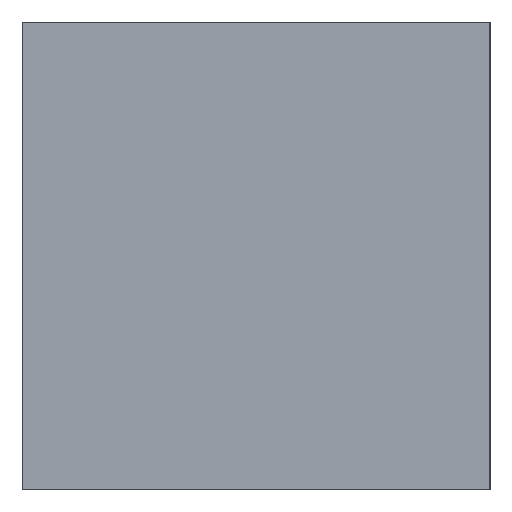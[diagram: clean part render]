
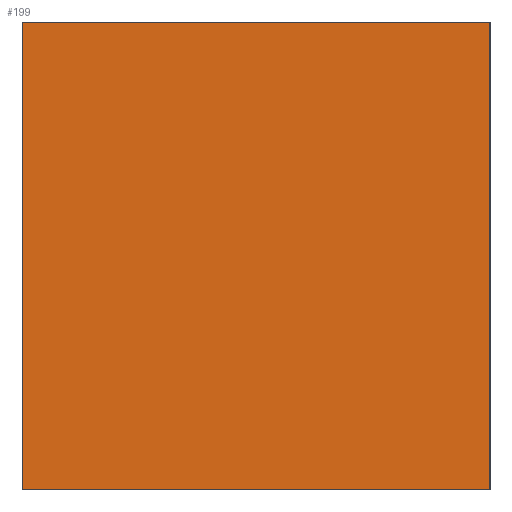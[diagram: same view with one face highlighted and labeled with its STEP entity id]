
A CAD part, left-side view. The second image highlights one B-rep face of the part: STEP entity #199.
In plain terms, the highlighted planar face has unit normal (-1, 0, 0).
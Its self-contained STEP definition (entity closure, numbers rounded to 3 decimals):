
#12 = DIRECTION ( 'NONE',  ( 0., 1., 0. ) ) ;
#15 = DIRECTION ( 'NONE',  ( 0., 0., -1. ) ) ;
#16 = CARTESIAN_POINT ( 'NONE',  ( -207.25, -3., 3. ) ) ;
#22 = DIRECTION ( 'NONE',  ( 0., 0., 1. ) ) ;
#24 = DIRECTION ( 'NONE',  ( 0., -1., 0. ) ) ;
#25 = CARTESIAN_POINT ( 'NONE',  ( -207.25, 3., 3. ) ) ;
#28 = CARTESIAN_POINT ( 'NONE',  ( -207.25, 3., -3. ) ) ;
#29 = CARTESIAN_POINT ( 'NONE',  ( -207.25, 3., 3. ) ) ;
#40 = DIRECTION ( 'NONE',  ( 1., 0., 0. ) ) ;
#41 = DIRECTION ( 'NONE',  ( 0., 0., -1. ) ) ;
#51 = PLANE ( 'NONE',  #191 ) ;
#55 = CARTESIAN_POINT ( 'NONE',  ( -207.25, -3., -3. ) ) ;
#71 = ORIENTED_EDGE ( 'NONE', *, *, #169, .F. ) ;
#73 = ORIENTED_EDGE ( 'NONE', *, *, #176, .F. ) ;
#83 = EDGE_LOOP ( 'NONE', ( #71, #156, #73, #87 ) ) ;
#87 = ORIENTED_EDGE ( 'NONE', *, *, #168, .F. ) ;
#90 = LINE ( 'NONE', #28, #98 ) ;
#96 = VECTOR ( 'NONE', #22, 1000. ) ;
#97 = LINE ( 'NONE', #29, #96 ) ;
#98 = VECTOR ( 'NONE', #12, 1000. ) ;
#107 = LINE ( 'NONE', #25, #108 ) ;
#108 = VECTOR ( 'NONE', #24, 1000. ) ;
#113 = LINE ( 'NONE', #16, #114 ) ;
#114 = VECTOR ( 'NONE', #15, 1000. ) ;
#122 = FACE_OUTER_BOUND ( 'NONE', #83, .T. ) ;
#138 = CARTESIAN_POINT ( 'NONE',  ( -207.25, -3., -3. ) ) ;
#142 = VERTEX_POINT ( 'NONE', #151 ) ;
#144 = VERTEX_POINT ( 'NONE', #150 ) ;
#146 = VERTEX_POINT ( 'NONE', #152 ) ;
#147 = VERTEX_POINT ( 'NONE', #138 ) ;
#150 = CARTESIAN_POINT ( 'NONE',  ( -207.25, 3., -3. ) ) ;
#151 = CARTESIAN_POINT ( 'NONE',  ( -207.25, -3., 3. ) ) ;
#152 = CARTESIAN_POINT ( 'NONE',  ( -207.25, 3., 3. ) ) ;
#156 = ORIENTED_EDGE ( 'NONE', *, *, #180, .F. ) ;
#168 = EDGE_CURVE ( 'NONE', #144, #146, #97, .T. ) ;
#169 = EDGE_CURVE ( 'NONE', #147, #144, #90, .T. ) ;
#176 = EDGE_CURVE ( 'NONE', #146, #142, #107, .T. ) ;
#180 = EDGE_CURVE ( 'NONE', #142, #147, #113, .T. ) ;
#191 = AXIS2_PLACEMENT_3D ( 'NONE', #55, #40, #41 ) ;
#199 = ADVANCED_FACE ( 'NONE', ( #122 ), #51, .F. ) ;
